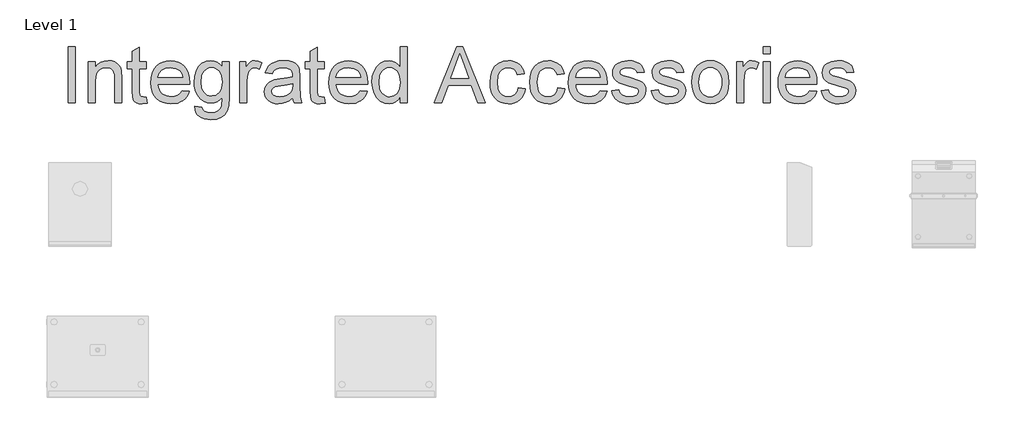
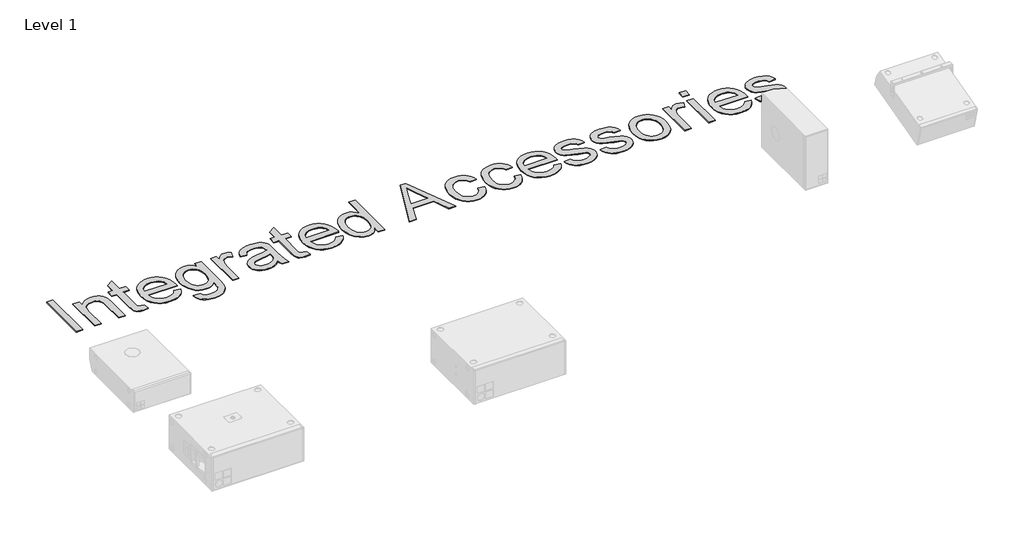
# One storey, part 6 of 55: 1 proxy.
"""IFC4 building model written with IfcOpenShell, lengths in millimetres."""

import ifcopenshell
import ifcopenshell.guid

model = None  # the IFC model being written
_history = None  # IfcOwnerHistory: only IFC2X3 demands one
_inside = {}  # id of a spatial element -> (the spatial element, [elements in it])
_under = {}  # id of a project, library or spatial element -> (it, [spatial elements below it])
_declared = {}  # id of a project -> (the project, [libraries it declares])
_typed = {}  # id of a type object -> (the type object, [elements of that type])
_made_of = {}  # id of a material, layer set ... -> (it, [elements and type objects made of it])


def new_model(schema):
    """Start an empty IFC model of exactly this schema.

    Asked for "IFC4X3", IfcOpenShell would pick the latest addendum, in which some entities
    have other attributes; the version numbers below select the first issue.
    IFC2X3 requires an IfcOwnerHistory on every rooted entity: one is made here for all.
    """
    global model, _history
    if schema == "IFC4X3":
        model = ifcopenshell.file(schema_version=(4, 3, 0, 0))
    else:
        model = ifcopenshell.file(schema=schema)
    _inside.clear()
    _under.clear()
    _declared.clear()
    _typed.clear()
    _made_of.clear()
    _history = None
    if model.schema == "IFC2X3":
        org = make("IfcOrganization", Name="unknown")
        user = make(
            "IfcPersonAndOrganization",
            ThePerson=make("IfcPerson", FamilyName="unknown"),
            TheOrganization=org,
        )
        app = make(
            "IfcApplication",
            ApplicationDeveloper=org,
            Version="unknown",
            ApplicationFullName="unknown",
            ApplicationIdentifier="unknown",
        )
        _history = make(
            "IfcOwnerHistory",
            OwningUser=user,
            OwningApplication=app,
            ChangeAction="ADDED",
            CreationDate=0,
        )
    return model


def make(cls, **values):
    """One entity of the class cls with the attributes given. An attribute that is None is left unset."""
    return model.create_entity(
        cls, **{name: value for name, value in values.items() if value is not None}
    )


def rooted(cls, **values):
    """An entity with a GlobalId (a new one), such as an element, a storey or a relation."""
    return make(cls, GlobalId=ifcopenshell.guid.new(), OwnerHistory=_history, **values)


def si_unit(unit_type, name, prefix=None):
    """IfcSIUnit, for example si_unit("LENGTHUNIT", "METRE", prefix="MILLI")."""
    return make("IfcSIUnit", UnitType=unit_type, Prefix=prefix, Name=name)


def assignment(units):
    """IfcUnitAssignment: the units of a project."""
    return None if units is None else make("IfcUnitAssignment", Units=units)


def point(xyz):
    """IfcCartesianPoint."""
    return None if xyz is None else make("IfcCartesianPoint", Coordinates=xyz)


def direction(xyz):
    """IfcDirection."""
    return None if xyz is None else make("IfcDirection", DirectionRatios=xyz)


def frame(location, z_axis=None, x_axis=None):
    """IfcAxis2Placement3D, a coordinate frame: its origin and axes. An axis left out is left unset."""
    return make(
        "IfcAxis2Placement3D",
        Location=point(location),
        Axis=direction(z_axis),
        RefDirection=direction(x_axis),
    )


def origin():
    """The frame at (0, 0, 0) with its axes left unset."""
    return frame((0.0, 0.0, 0.0))


def origin_with_axes():
    """The frame at (0, 0, 0) with the z axis (0, 0, 1) and the x axis (1, 0, 0) written out."""
    return frame((0.0, 0.0, 0.0), z_axis=(0.0, 0.0, 1.0), x_axis=(1.0, 0.0, 0.0))


def place(relative_to, where):
    """IfcLocalPlacement: puts the frame where relative to a parent placement (None: the world)."""
    return make(
        "IfcLocalPlacement", PlacementRelTo=relative_to, RelativePlacement=where
    )


def context(
    kind, dimensions, precision=None, world=None, true_north=None, identifier=None
):
    """IfcGeometricRepresentationContext, for example the 3D "Model" context."""
    return make(
        "IfcGeometricRepresentationContext",
        ContextIdentifier=identifier,
        ContextType=kind,
        CoordinateSpaceDimension=dimensions,
        Precision=precision,
        WorldCoordinateSystem=world,
        TrueNorth=true_north,
    )


def project(units=None, contexts=None):
    """IfcProject with its units and contexts."""
    return rooted(
        "IfcProject",
        Name="project",
        RepresentationContexts=contexts,
        UnitsInContext=assignment(units),
    )


def spatial(cls, under=None, at=None, **own):
    """A site, building, storey or space (cls), placed at a placement, below another one or the project."""
    s = rooted(cls, ObjectPlacement=at, **own)
    if under is not None:
        _under.setdefault(under.id(), (under, []))[1].append(s)
    return s


def polyline(points):
    """IfcPolyline through the points."""
    return make("IfcPolyline", Points=[point(p) for p in points])


def outline(outer, holes=None, kind="AREA"):
    """IfcArbitraryClosedProfileDef: a profile drawn as a closed curve; with holes, ...WithVoids."""
    if holes is None:
        return make("IfcArbitraryClosedProfileDef", ProfileType=kind, OuterCurve=outer)
    return make(
        "IfcArbitraryProfileDefWithVoids",
        ProfileType=kind,
        OuterCurve=outer,
        InnerCurves=holes,
    )


def extrude(swept, where, along, depth):
    """IfcExtrudedAreaSolid: the profile swept, set in the frame where, extruded along a direction by depth."""
    return make(
        "IfcExtrudedAreaSolid",
        SweptArea=swept,
        Position=where,
        ExtrudedDirection=direction(along),
        Depth=depth,
    )


def shape(context_of_items, identifier, shape_type, items):
    """IfcShapeRepresentation: the items that make up one representation, for example the "Body"."""
    return make(
        "IfcShapeRepresentation",
        ContextOfItems=context_of_items,
        RepresentationIdentifier=identifier,
        RepresentationType=shape_type,
        Items=items,
    )


def made_of(thing, what):
    """Note that an element or type object is made of a material, layer set ...; save() writes the relation."""
    if what is not None:
        _made_of.setdefault(what.id(), (what, []))[1].append(thing)
    return thing


def element(
    cls,
    number,
    at=None,
    inside=None,
    cuts=None,
    type_object=None,
    material=None,
    context=None,
    identifier="Body",
    shape_type=None,
    held_by="IfcProductDefinitionShape",
    body=None,
    shapes=None,
    **own,
):
    """One element of the class cls, such as IfcWall. Its Tag is "e" and its number.

    at: its placement. inside: the storey or other place that contains it. cuts: it is an
    opening in that element (IfcRelVoidsElement). A single representation is given by context,
    identifier, shape_type and body (its items); several are given by shapes. held_by: the class
    of the entity that holds the representations. save() writes the other relations.
    """
    e = rooted(cls, Tag="e%d" % number, ObjectPlacement=at, **own)
    if body is not None:
        shapes = [shape(context, identifier, shape_type, body)]
    if shapes is not None:
        e.Representation = make(held_by, Representations=shapes)
    if inside is not None:
        _inside.setdefault(inside.id(), (inside, []))[1].append(e)
    if cuts is not None:
        rooted(
            "IfcRelVoidsElement", RelatingBuildingElement=cuts, RelatedOpeningElement=e
        )
    if type_object is not None:
        _typed.setdefault(type_object.id(), (type_object, []))[1].append(e)
    return made_of(e, material)


def aggregate(whole, parts):
    """IfcRelAggregates: a whole, such as a stair, and the parts it consists of."""
    return rooted("IfcRelAggregates", RelatingObject=whole, RelatedObjects=parts)


def save(model, path):
    """Write the relations noted so far, then the file.

    IfcRelAggregates (storeys below a building ...), IfcRelContainedInSpatialStructure (elements
    in a storey), IfcRelDefinesByType, IfcRelAssociatesMaterial and IfcRelDeclares: one each for
    every whole, place, type object, material and project.
    """
    for whole, parts in _under.values():
        aggregate(whole, parts)
    for where, things in _inside.values():
        rooted(
            "IfcRelContainedInSpatialStructure",
            RelatedElements=things,
            RelatingStructure=where,
        )
    for kind, things in _typed.values():
        rooted("IfcRelDefinesByType", RelatedObjects=things, RelatingType=kind)
    for what, things in _made_of.values():
        rooted("IfcRelAssociatesMaterial", RelatedObjects=things, RelatingMaterial=what)
    for by, libraries in _declared.values():
        rooted("IfcRelDeclares", RelatingContext=by, RelatedDefinitions=libraries)
    model.write(path)


model = new_model("IFC4")

# Units and contexts
model_context = context("Model", 3, world=origin())
ifc_project = project(units=[si_unit("LENGTHUNIT", "METRE", prefix="MILLI")], contexts=[model_context])

# Site, building, storey
site = spatial("IfcSite", under=ifc_project)
building = spatial("IfcBuilding", under=site)
storey = spatial("IfcBuildingStorey", under=building, Name="Level 1", Elevation=0.0)

# Proxy
placement = place(None, origin())
element("IfcBuildingElementProxy", 1, Name="400mm Arial", ObjectType="400mm Arial", at=placement, inside=storey, context=model_context, shape_type="SweptSolid", body=[
    extrude(outline(polyline([(-11437.7764845, -35148.6945164), (-11437.7764845, -34756.9369407), (-11388.8067875, -34756.9369407), (-11388.8067875, -35148.6945164), (-11437.7764845, -35148.6945164)])), origin_with_axes(), (0.0, 0.0, 1.0), 5.0),
    extrude(outline(polyline([(-11296.9886057, -35148.6945164), (-11296.9886057, -34860.9975467), (-11248.0189088, -34860.9975467), (-11248.0189088, -34901.1680013), (-11231.006243, -34880.9153971), (-11210.5743065, -34866.4492513), (-11186.7230991, -34857.7695638), (-11159.4526209, -34854.8763346), (-11135.3144817, -34857.2076556), (-11113.2087762, -34864.2016187), (-11094.7734069, -34874.9854729), (-11081.6462762, -34888.6864672), (-11072.7394343, -34905.2687352), (-11066.9649315, -34924.6964104), (-11064.3825451, -34972.0401604), (-11064.3825451, -35148.6945164), (-11113.3522421, -35148.6945164), (-11113.3522421, -34978.6395922), (-11114.7629902, -34953.3178592), (-11118.9952345, -34935.3128876), (-11126.8021711, -34922.4129113), (-11138.9369959, -34912.4061642), (-11154.4910915, -34905.9860647), (-11172.5558406, -34903.8460316), (-11201.2370669, -34908.6521395), (-11225.6860489, -34923.0704634), (-11235.4566751, -34934.8406457), (-11242.4356938, -34950.9267607), (-11246.623105, -34971.3288086), (-11248.0189088, -34996.0467892), (-11248.0189088, -35148.6945164), (-11296.9886057, -35148.6945164)])), origin_with_axes(), (0.0, 0.0, 1.0), 5.0),
    extrude(outline(polyline([(-10892.9886057, -35107.8545543), (-10886.8673936, -35150.1291755), (-10923.4990224, -35154.8157285), (-10947.0035205, -35152.7832948), (-10964.5302724, -35146.6859937), (-10976.9161625, -35137.2889767), (-10984.9980754, -35125.3573952), (-10989.4455186, -35104.8656812), (-10990.9279997, -35069.7882664), (-10990.9279997, -34909.9672437), (-11027.6552724, -34909.9672437), (-11027.6552724, -34860.9975467), (-10990.9279997, -34860.9975467), (-10990.9279997, -34791.081827), (-10941.9583027, -34762.2930013), (-10941.9583027, -34860.9975467), (-10892.9886057, -34860.9975467), (-10892.9886057, -34909.9672437), (-10941.9583027, -34909.9672437), (-10941.9583027, -35068.3536073), (-10939.3759163, -35093.6036073), (-10931.0070716, -35102.5463157), (-10914.3172042, -35105.8460316), (-10892.9886057, -35107.8545543)])), origin_with_axes(), (0.0, 0.0, 1.0), 5.0),
    extrude(outline(polyline([(-10642.5927724, -35062.9975467), (-10594.5795148, -35069.1187589), (-10601.9411093, -35088.3491684), (-10611.8791124, -35105.2960789), (-10624.3935241, -35119.9594904), (-10639.4843444, -35132.3394028), (-10656.9961519, -35142.1727953), (-10676.7735252, -35149.1966471), (-10723.1249694, -35154.8157285), (-10753.5098534, -35152.3917525), (-10780.583066, -35145.1198242), (-10804.3446072, -35132.9999437), (-10824.7944769, -35116.0321111), (-10841.2392568, -35094.6885683), (-10852.9855281, -35069.4415571), (-10860.0332909, -35040.2910777), (-10862.3825451, -35007.2371301), (-10860.0093799, -34973.062355), (-10852.8898841, -34942.9404918), (-10841.0240579, -34916.8715406), (-10824.4119012, -34894.8555013), (-10804.0158311, -34877.3646159), (-10780.7982648, -34864.8711263), (-10754.7592023, -34857.3750325), (-10725.8986436, -34854.8763346), (-10697.9676244, -34857.3690548), (-10672.7086578, -34864.8472153), (-10650.1217438, -34877.3108161), (-10630.2068822, -34894.7598573), (-10613.9504014, -34916.7280747), (-10602.3386294, -34942.7492039), (-10595.3715662, -34972.8232451), (-10593.0492118, -35006.9501982), (-10593.3361436, -35020.1490619), (-10813.4128482, -35020.1490619), (-10810.5764076, -35039.6903142), (-10804.936404, -35056.8046017), (-10796.4928375, -35071.4919241), (-10785.245708, -35083.7522816), (-10756.8275025, -35100.3225941), (-10722.16853, -35105.8460316), (-10696.1055565, -35103.2875562), (-10674.1552724, -35095.6121301), (-10656.3176777, -35082.3415335), (-10642.5927724, -35062.9975467)]), holes=[polyline([(-10813.4128482, -34971.1793649), (-10642.0189088, -34971.1793649), (-10648.6422516, -34945.3076793), (-10661.6259163, -34926.800577), (-10674.9802014, -34916.7579634), (-10690.1756322, -34909.5846679), (-10726.0899315, -34903.8460316), (-10759.0990461, -34908.4249852), (-10786.3934353, -34922.161846), (-10805.3668018, -34943.5741329), (-10813.4128482, -34971.1793649)])]), origin_with_axes(), (0.0, 0.0, 1.0), 5.0),
    extrude(outline(polyline([(-10556.3219391, -35173.1793649), (-10507.3522421, -35179.300577), (-10501.9483595, -35194.6036073), (-10491.4753482, -35205.1244407), (-10470.8879902, -35213.3019975), (-10443.9403103, -35216.0278498), (-10415.1993065, -35212.9433327), (-10393.822886, -35203.6897816), (-10378.9980754, -35188.864971), (-10369.9119012, -35169.0666755), (-10366.5643633, -35111.9672437), (-10382.8596995, -35128.0354255), (-10401.0440035, -35139.5126982), (-10421.1172752, -35146.3990619), (-10443.0795148, -35148.6945164), (-10469.9285619, -35146.0224639), (-10493.5675593, -35138.0063062), (-10513.996507, -35124.6460434), (-10531.215405, -35105.9416755), (-10544.8775439, -35083.5012162), (-10554.6362146, -35058.9326793), (-10560.491417, -35032.2360647), (-10562.4431512, -35003.4113725), (-10558.9401919, -34963.874559), (-10548.4313141, -34927.5179066), (-10531.2871379, -34896.7086026), (-10507.8782838, -34873.8138346), (-10479.0057696, -34859.6107096), (-10445.4706133, -34854.8763346), (-10422.5698676, -34857.5543649), (-10401.785244, -34865.5884558), (-10383.1167426, -34878.9786073), (-10366.5643633, -34897.7248195), (-10366.5643633, -34860.9975467), (-10317.5946663, -34860.9975467), (-10317.5946663, -35109.3848573), (-10320.9422042, -35166.7353545), (-10330.9848179, -35204.5027551), (-10348.2844154, -35229.5495117), (-10373.402905, -35248.738077), (-10405.7903339, -35260.9326793), (-10444.8967497, -35264.9975467), (-10490.4591313, -35259.2708659), (-10509.6088413, -35252.1125148), (-10526.3375641, -35242.0908232), (-10539.8502594, -35229.1938358), (-10549.351887, -35213.4095969), (-10554.8424469, -35194.7381066), (-10556.3219391, -35173.1793649)]), holes=[polyline([(-10513.4734542, -35000.0638346), (-10508.248904, -35044.9806196), (-10501.7182163, -35062.1756066), (-10492.5752535, -35075.8616566), (-10481.4596344, -35086.3017903), (-10469.0109779, -35093.7590287), (-10455.229284, -35098.2333718), (-10440.1145527, -35099.7248195), (-10411.4333264, -35093.7948952), (-10387.7494959, -35076.0051225), (-10378.4810004, -35062.4535718), (-10371.8606464, -35045.5186168), (-10366.5643633, -35001.4984937), (-10372.0160679, -34959.0445401), (-10378.8306985, -34942.2739731), (-10388.3711815, -34928.474346), (-10412.4017213, -34910.0031102), (-10426.0847823, -34905.3853012), (-10440.8797042, -34903.8460316), (-10455.4265496, -34905.3613902), (-10468.843601, -34909.9074662), (-10492.2883216, -34928.0917702), (-10501.5568171, -34941.6821762), (-10508.1771711, -34958.2076556), (-10513.4734542, -35000.0638346)])]), origin_with_axes(), (0.0, 0.0, 1.0), 5.0),
    extrude(outline(polyline([(-10244.1401209, -35148.6945164), (-10244.1401209, -34860.9975467), (-10201.291636, -34860.9975467), (-10201.291636, -34903.5590998), (-10185.4625641, -34878.8829634), (-10170.8768633, -34864.3450846), (-10156.2433406, -34857.2435221), (-10140.2708027, -34854.8763346), (-10115.8815982, -34858.6542702), (-10091.1098179, -34869.988077), (-10107.4649315, -34913.8886452), (-10124.6808406, -34906.356685), (-10141.8967497, -34903.8460316), (-10156.5183169, -34906.261041), (-10169.5856701, -34913.5060695), (-10180.1423699, -34925.0311642), (-10187.2319769, -34940.2863725), (-10193.1858122, -34967.6405392), (-10195.1704239, -34997.4814482), (-10195.1704239, -35148.6945164), (-10244.1401209, -35148.6945164)])), origin_with_axes(), (0.0, 0.0, 1.0), 5.0),
    extrude(outline(polyline([(-9876.8673936, -35111.9672437), (-9900.2642923, -35132.02856), (-9924.3546095, -35145.1556907), (-9949.688298, -35152.4007191), (-9976.8153103, -35154.8157285), (-9998.6191396, -35153.3631362), (-10017.7389608, -35149.0053592), (-10034.1747741, -35141.7423976), (-10047.9265792, -35131.5742513), (-10058.7851552, -35119.1465169), (-10066.5412809, -35105.104791), (-10071.1949563, -35089.4490737), (-10072.7461815, -35072.1793649), (-10070.402905, -35051.8789388), (-10063.3730754, -35033.4435695), (-10052.5294438, -35017.6623195), (-10038.744761, -35005.3242513), (-10004.4564088, -34989.2560695), (-9962.0861436, -34981.8914861), (-9912.0165413, -34974.144327), (-9877.1543254, -34965.0581528), (-9876.8673936, -34954.1547437), (-9880.2388425, -34932.3001035), (-9890.3531891, -34918.0013346), (-9912.9729807, -34907.3848573), (-9944.4876588, -34903.8460316), (-9973.6590603, -34906.2012636), (-9994.0312194, -34913.2669596), (-10007.9235016, -34926.3343128), (-10017.6552724, -34946.6945164), (-10066.6249694, -34940.5733043), (-10058.1246143, -34913.7930013), (-10045.4398368, -34892.7513346), (-10027.3870432, -34876.6592418), (-10002.7826398, -34864.7276604), (-9972.6906654, -34857.339166), (-9938.1751588, -34854.8763346), (-9905.0704002, -34857.0522342), (-9878.8280944, -34863.5799331), (-9859.0417544, -34873.3953924), (-9845.3048936, -34885.4345732), (-9836.1948084, -34900.3191613), (-9830.2887951, -34918.6708422), (-9827.8976966, -34961.519327), (-9827.8976966, -35022.4445164), (-9825.4109542, -35107.5198005), (-9815.6552724, -35148.6945164), (-9864.6249694, -35148.6945164), (-9872.4677724, -35131.6698952), (-9876.8673936, -35111.9672437)]), holes=[polyline([(-9876.8673936, -35014.0278498), (-9909.7689088, -35022.1814956), (-9955.8692875, -35029.0439482), (-9998.0004429, -35036.9823952), (-10008.9636294, -35042.4101888), (-10017.0814088, -35049.894327), (-10022.1027156, -35058.8609464), (-10023.7764845, -35068.7361831), (-10020.1300593, -35083.2979729), (-10009.1907838, -35095.2295543), (-9991.1977677, -35103.1919123), (-9966.3901209, -35105.8460316), (-9940.0880375, -35102.9169359), (-9916.8465603, -35094.129649), (-9898.0047042, -35081.1818507), (-9884.9014845, -35065.771221), (-9879.0911152, -35049.894327), (-9877.1543254, -35027.896221), (-9876.8673936, -35014.0278498)])]), origin_with_axes(), (0.0, 0.0, 1.0), 5.0),
    extrude(outline(polyline([(-9656.5037572, -35107.8545543), (-9650.3825451, -35150.1291755), (-9687.0141739, -35154.8157285), (-9710.518672, -35152.7832948), (-9728.0454239, -35146.6859937), (-9740.4313141, -35137.2889767), (-9748.5132269, -35125.3573952), (-9752.9606701, -35104.8656812), (-9754.4431512, -35069.7882664), (-9754.4431512, -34909.9672437), (-9791.1704239, -34909.9672437), (-9791.1704239, -34860.9975467), (-9754.4431512, -34860.9975467), (-9754.4431512, -34791.081827), (-9705.4734542, -34762.2930013), (-9705.4734542, -34860.9975467), (-9656.5037572, -34860.9975467), (-9656.5037572, -34909.9672437), (-9705.4734542, -34909.9672437), (-9705.4734542, -35068.3536073), (-9702.8910679, -35093.6036073), (-9694.5222232, -35102.5463157), (-9677.8323557, -35105.8460316), (-9656.5037572, -35107.8545543)])), origin_with_axes(), (0.0, 0.0, 1.0), 5.0),
    extrude(outline(polyline([(-9406.1079239, -35062.9975467), (-9358.0946663, -35069.1187589), (-9365.4562608, -35088.3491684), (-9375.3942639, -35105.2960789), (-9387.9086756, -35119.9594904), (-9402.9994959, -35132.3394028), (-9420.5113034, -35142.1727953), (-9440.2886768, -35149.1966471), (-9486.6401209, -35154.8157285), (-9517.0250049, -35152.3917525), (-9544.0982175, -35145.1198242), (-9567.8597587, -35132.9999437), (-9588.3096285, -35116.0321111), (-9604.7544083, -35094.6885683), (-9616.5006796, -35069.4415571), (-9623.5484424, -35040.2910777), (-9625.8976966, -35007.2371301), (-9623.5245314, -34973.062355), (-9616.4050357, -34942.9404918), (-9604.5392094, -34916.8715406), (-9587.9270527, -34894.8555013), (-9567.5309826, -34877.3646159), (-9544.3134163, -34864.8711263), (-9518.2743538, -34857.3750325), (-9489.4137951, -34854.8763346), (-9461.4827759, -34857.3690548), (-9436.2238093, -34864.8472153), (-9413.6368953, -34877.3108161), (-9393.7220338, -34894.7598573), (-9377.4655529, -34916.7280747), (-9365.8537809, -34942.7492039), (-9358.8867177, -34972.8232451), (-9356.5643633, -35006.9501982), (-9356.8512951, -35020.1490619), (-9576.9279997, -35020.1490619), (-9574.0915591, -35039.6903142), (-9568.4515555, -35056.8046017), (-9560.007989, -35071.4919241), (-9548.7608595, -35083.7522816), (-9520.342654, -35100.3225941), (-9485.6836815, -35105.8460316), (-9459.620708, -35103.2875562), (-9437.6704239, -35095.6121301), (-9419.8328292, -35082.3415335), (-9406.1079239, -35062.9975467)]), holes=[polyline([(-9576.9279997, -34971.1793649), (-9405.5340603, -34971.1793649), (-9412.1574031, -34945.3076793), (-9425.1410679, -34926.800577), (-9438.4953529, -34916.7579634), (-9453.6907838, -34909.5846679), (-9489.605083, -34903.8460316), (-9522.6141976, -34908.4249852), (-9549.9085868, -34922.161846), (-9568.8819533, -34943.5741329), (-9576.9279997, -34971.1793649)])]), origin_with_axes(), (0.0, 0.0, 1.0), 5.0),
    extrude(outline(polyline([(-9130.0795148, -35148.6945164), (-9130.0795148, -35102.4984937), (-9144.7309708, -35125.3872839), (-9162.4788993, -35141.7364198), (-9183.3233003, -35151.5459014), (-9207.2641739, -35154.8157285), (-9238.9223179, -35150.0813535), (-9267.9024315, -35135.8782285), (-9292.4351019, -35113.1986594), (-9310.7509163, -35083.034952), (-9322.1564561, -35046.6065666), (-9325.9583027, -35005.1329634), (-9322.4553434, -34964.1734464), (-9311.9464656, -34927.1831528), (-9294.4436247, -34896.2662494), (-9269.9587762, -34873.5269028), (-9240.3450214, -34859.5389767), (-9207.4554618, -34854.8763346), (-9183.496655, -34858.211917), (-9162.3115224, -34868.2186642), (-9144.3543728, -34883.5575609), (-9130.0795148, -34902.8895922), (-9130.0795148, -34756.9369407), (-9081.1098179, -34756.9369407), (-9081.1098179, -35148.6945164), (-9130.0795148, -35148.6945164)]), holes=[polyline([(-9276.9886057, -35004.9416755), (-9271.4651682, -35049.236775), (-9264.5608714, -35066.5871833), (-9254.8948557, -35080.7394975), (-9230.816494, -35099.5693981), (-9217.2888543, -35104.2768732), (-9202.7689088, -35105.8460316), (-9174.733279, -35099.8563299), (-9151.2646474, -35081.8872248), (-9141.9961519, -35068.3267075), (-9135.375798, -35051.6039625), (-9130.0795148, -35008.6717892), (-9135.4714419, -34961.7345259), (-9142.2113508, -34943.6637991), (-9151.6472232, -34929.1916755), (-9163.0557518, -34918.1029563), (-9175.7136294, -34910.1824426), (-9189.620856, -34905.4301343), (-9204.7774315, -34903.8460316), (-9219.5843089, -34905.367368), (-9233.1119485, -34909.9313772), (-9245.3603505, -34917.5380593), (-9256.3295148, -34928.1874142), (-9265.3678671, -34942.112574), (-9271.823833, -34959.5466708), (-9276.9886057, -35004.9416755)])]), origin_with_axes(), (0.0, 0.0, 1.0), 5.0),
    extrude(outline(polyline([(-8894.0302724, -35148.6945164), (-8737.6524315, -34756.9369407), (-8695.9516739, -34756.9369407), (-8539.6694769, -35148.6945164), (-8591.4128482, -35148.6945164), (-8636.1742118, -35026.270274), (-8797.6211815, -35026.270274), (-8842.3825451, -35148.6945164), (-8894.0302724, -35148.6945164)]), holes=[polyline([(-8779.6401209, -34977.300577), (-8654.0596285, -34977.300577), (-8689.447886, -34880.9871301), (-8716.8976966, -34805.9066376), (-8741.2869012, -34872.5704634), (-8779.6401209, -34977.300577)])]), origin_with_axes(), (0.0, 0.0, 1.0), 5.0),
    extrude(outline(polyline([(-8309.8370906, -35044.6339104), (-8260.8673936, -35050.7551225), (-8266.1935655, -35073.8621005), (-8274.520566, -35094.3089814), (-8285.848395, -35112.0957652), (-8300.1770527, -35127.222452), (-8316.9027866, -35139.2945105), (-8335.4218444, -35147.9174094), (-8355.734226, -35153.0911488), (-8377.8399315, -35154.8157285), (-8405.3046865, -35152.4096857), (-8429.930012, -35145.1915571), (-8451.715908, -35133.1613429), (-8470.6623747, -35116.3190429), (-8485.9982826, -35094.9814778), (-8496.9525025, -35069.4654681), (-8503.5250345, -35039.7710138), (-8505.7158785, -35005.8981149), (-8501.9738093, -34962.320345), (-8490.7476019, -34924.5529445), (-8471.8579239, -34894.0544833), (-8445.1254429, -34872.2835316), (-8413.1445006, -34859.2281339), (-8378.5094391, -34854.8763346), (-8356.7833205, -34856.3707712), (-8337.1314798, -34860.8540808), (-8319.553917, -34868.3262636), (-8304.0506322, -34878.7873195), (-8290.8846462, -34891.9981386), (-8280.3189798, -34907.7196111), (-8272.353633, -34925.9517371), (-8266.9886057, -34946.6945164), (-8315.9583027, -34952.8157285), (-8324.8412336, -34931.4512636), (-8338.6737383, -34916.1362778), (-8356.6906654, -34906.9185931), (-8378.1268633, -34903.8460316), (-8394.7659199, -34905.3584014), (-8409.7730518, -34909.8955107), (-8423.1482589, -34917.4573597), (-8434.8915413, -34928.0439482), (-8444.4529464, -34941.900364), (-8451.2825214, -34959.2716945), (-8456.7461815, -35004.5590998), (-8451.4020764, -35050.4562352), (-8444.721945, -35067.9441317), (-8435.369761, -35081.7915808), (-8423.8596107, -35092.315403), (-8410.7055802, -35099.8324189), (-8395.9076694, -35104.3426284), (-8379.4658785, -35105.8460316), (-8354.108279, -35102.092007), (-8333.3176777, -35090.8299331), (-8318.1939798, -35071.7728782), (-8309.8370906, -35044.6339104)])), origin_with_axes(), (0.0, 0.0, 1.0), 5.0),
    extrude(outline(polyline([(-8034.3825451, -35044.6339104), (-7985.4128482, -35050.7551225), (-7990.73902, -35073.8621005), (-7999.0660205, -35094.3089814), (-8010.3938496, -35112.0957652), (-8024.7225072, -35127.222452), (-8041.4482411, -35139.2945105), (-8059.9672989, -35147.9174094), (-8080.2796805, -35153.0911488), (-8102.385386, -35154.8157285), (-8129.850141, -35152.4096857), (-8154.4754665, -35145.1915571), (-8176.2613626, -35133.1613429), (-8195.2078292, -35116.3190429), (-8210.5437371, -35094.9814778), (-8221.4979571, -35069.4654681), (-8228.070489, -35039.7710138), (-8230.261333, -35005.8981149), (-8226.5192639, -34962.320345), (-8215.2930565, -34924.5529445), (-8196.4033785, -34894.0544833), (-8169.6708974, -34872.2835316), (-8137.6899552, -34859.2281339), (-8103.0548936, -34854.8763346), (-8081.328775, -34856.3707712), (-8061.6769343, -34860.8540808), (-8044.0993716, -34868.3262636), (-8028.5960868, -34878.7873195), (-8015.4301008, -34891.9981386), (-8004.8644343, -34907.7196111), (-7996.8990875, -34925.9517371), (-7991.5340603, -34946.6945164), (-8040.5037572, -34952.8157285), (-8049.3866881, -34931.4512636), (-8063.2191929, -34916.1362778), (-8081.2361199, -34906.9185931), (-8102.6723179, -34903.8460316), (-8119.3113744, -34905.3584014), (-8134.3185063, -34909.8955107), (-8147.6937134, -34917.4573597), (-8159.4369959, -34928.0439482), (-8168.9984009, -34941.900364), (-8175.827976, -34959.2716945), (-8181.291636, -35004.5590998), (-8175.9475309, -35050.4562352), (-8169.2673995, -35067.9441317), (-8159.9152156, -35081.7915808), (-8148.4050652, -35092.315403), (-8135.2510347, -35099.8324189), (-8120.453124, -35104.3426284), (-8104.011333, -35105.8460316), (-8078.6537336, -35102.092007), (-8057.8631322, -35090.8299331), (-8042.7394343, -35071.7728782), (-8034.3825451, -35044.6339104)])), origin_with_axes(), (0.0, 0.0, 1.0), 5.0),
    extrude(outline(polyline([(-7741.1382269, -35062.9975467), (-7693.1249694, -35069.1187589), (-7700.4865638, -35088.3491684), (-7710.4245669, -35105.2960789), (-7722.9389786, -35119.9594904), (-7738.0297989, -35132.3394028), (-7755.5416064, -35142.1727953), (-7775.3189798, -35149.1966471), (-7821.6704239, -35154.8157285), (-7852.0553079, -35152.3917525), (-7879.1285205, -35145.1198242), (-7902.8900617, -35132.9999437), (-7923.3399315, -35116.0321111), (-7939.7847113, -35094.6885683), (-7951.5309826, -35069.4415571), (-7958.5787454, -35040.2910777), (-7960.9279997, -35007.2371301), (-7958.5548344, -34973.062355), (-7951.4353387, -34942.9404918), (-7939.5695125, -34916.8715406), (-7922.9573557, -34894.8555013), (-7902.5612857, -34877.3646159), (-7879.3437194, -34864.8711263), (-7853.3046569, -34857.3750325), (-7824.4440982, -34854.8763346), (-7796.513079, -34857.3690548), (-7771.2541124, -34864.8472153), (-7748.6671983, -34877.3108161), (-7728.7523368, -34894.7598573), (-7712.495856, -34916.7280747), (-7700.8840839, -34942.7492039), (-7693.9170207, -34972.8232451), (-7691.5946663, -35006.9501982), (-7691.8815982, -35020.1490619), (-7911.9583027, -35020.1490619), (-7909.1218621, -35039.6903142), (-7903.4818586, -35056.8046017), (-7895.038292, -35071.4919241), (-7883.7911625, -35083.7522816), (-7855.3729571, -35100.3225941), (-7820.7139845, -35105.8460316), (-7794.651011, -35103.2875562), (-7772.7007269, -35095.6121301), (-7754.8631322, -35082.3415335), (-7741.1382269, -35062.9975467)]), holes=[polyline([(-7911.9583027, -34971.1793649), (-7740.5643633, -34971.1793649), (-7747.1877061, -34945.3076793), (-7760.1713709, -34926.800577), (-7773.5256559, -34916.7579634), (-7788.7210868, -34909.5846679), (-7824.635386, -34903.8460316), (-7857.6445006, -34908.4249852), (-7884.9388898, -34922.161846), (-7903.9122563, -34943.5741329), (-7911.9583027, -34971.1793649)])]), origin_with_axes(), (0.0, 0.0, 1.0), 5.0),
    extrude(outline(polyline([(-7660.9886057, -35062.9975467), (-7612.0189088, -35056.8763346), (-7604.2956607, -35077.8223573), (-7589.3512951, -35093.2210316), (-7567.0901682, -35102.6897816), (-7537.416636, -35105.8460316), (-7508.1017686, -35102.9528024), (-7487.4904997, -35094.2731149), (-7475.2958974, -35081.6959369), (-7471.23103, -35067.1102361), (-7475.3198084, -35054.628702), (-7487.5861436, -35045.1121301), (-7537.9904997, -35031.1481149), (-7611.7319769, -35007.1893081), (-7630.3945006, -34995.1501272), (-7643.9161625, -34979.2134558), (-7652.1295858, -34960.3955107), (-7654.8673936, -34939.7125089), (-7652.667583, -34920.7391424), (-7646.0681512, -34903.224346), (-7635.6668728, -34887.8615382), (-7622.0615224, -34875.3441376), (-7590.9294201, -34860.8540808), (-7548.7982648, -34854.8763346), (-7516.924922, -34857.2793886), (-7489.2120906, -34864.4885505), (-7466.9270527, -34875.7984464), (-7451.3370906, -34890.503702), (-7441.0075451, -34909.6922674), (-7434.5037572, -34934.4520922), (-7483.4734542, -34940.5733043), (-7489.6544438, -34925.1626746), (-7501.8849125, -34913.5538914), (-7520.2844154, -34906.2729965), (-7544.9725072, -34903.8460316), (-7573.0918254, -34906.1653971), (-7591.8380375, -34913.1234937), (-7602.3827819, -34923.1661073), (-7605.8976966, -34934.739024), (-7600.0634163, -34948.989971), (-7581.7954239, -34959.7977361), (-7539.6164466, -34970.2229255), (-7467.7400262, -34993.2731149), (-7448.7547042, -35004.2960789), (-7434.3602913, -35019.3839104), (-7425.2860726, -35038.5844312), (-7422.261333, -35061.9454634), (-7425.8121143, -35086.0955581), (-7436.464458, -35108.8109937), (-7453.8118775, -35128.3104018), (-7477.447886, -35142.8124142), (-7505.9976019, -35151.8149), (-7538.0861436, -35154.8157285), (-7564.4420267, -35153.369114), (-7587.4623273, -35149.0292702), (-7607.1470456, -35141.7961973), (-7623.4961815, -35131.6698952), (-7636.8504665, -35118.6981859), (-7647.5506322, -35102.9288914), (-7655.5966786, -35084.3620117), (-7660.9886057, -35062.9975467)])), origin_with_axes(), (0.0, 0.0, 1.0), 5.0),
    extrude(outline(polyline([(-7385.5340603, -35062.9975467), (-7336.5643633, -35056.8763346), (-7328.8411152, -35077.8223573), (-7313.8967497, -35093.2210316), (-7291.6356228, -35102.6897816), (-7261.9620906, -35105.8460316), (-7232.6472232, -35102.9528024), (-7212.0359542, -35094.2731149), (-7199.8413519, -35081.6959369), (-7195.7764845, -35067.1102361), (-7199.8652629, -35054.628702), (-7212.1315982, -35045.1121301), (-7262.5359542, -35031.1481149), (-7336.2774315, -35007.1893081), (-7354.9399552, -34995.1501272), (-7368.4616171, -34979.2134558), (-7376.6750404, -34960.3955107), (-7379.4128482, -34939.7125089), (-7377.2130375, -34920.7391424), (-7370.6136057, -34903.224346), (-7360.2123273, -34887.8615382), (-7346.6069769, -34875.3441376), (-7315.4748747, -34860.8540808), (-7273.3437194, -34854.8763346), (-7241.4703766, -34857.2793886), (-7213.7575451, -34864.4885505), (-7191.4725072, -34875.7984464), (-7175.8825451, -34890.503702), (-7165.5529997, -34909.6922674), (-7159.0492118, -34934.4520922), (-7208.0189088, -34940.5733043), (-7214.1998983, -34925.1626746), (-7226.4303671, -34913.5538914), (-7244.8298699, -34906.2729965), (-7269.5179618, -34903.8460316), (-7297.63728, -34906.1653971), (-7316.3834921, -34913.1234937), (-7326.9282364, -34923.1661073), (-7330.4431512, -34934.739024), (-7324.6088709, -34948.989971), (-7306.3408785, -34959.7977361), (-7264.1619012, -34970.2229255), (-7192.2854807, -34993.2731149), (-7173.3001588, -35004.2960789), (-7158.9057459, -35019.3839104), (-7149.8315271, -35038.5844312), (-7146.8067875, -35061.9454634), (-7150.3575688, -35086.0955581), (-7161.0099125, -35108.8109937), (-7178.3573321, -35128.3104018), (-7201.9933406, -35142.8124142), (-7230.5430565, -35151.8149), (-7262.6315982, -35154.8157285), (-7288.9874812, -35153.369114), (-7312.0077819, -35149.0292702), (-7331.6925001, -35141.7961973), (-7348.041636, -35131.6698952), (-7361.3959211, -35118.6981859), (-7372.0960868, -35102.9288914), (-7380.1421332, -35084.3620117), (-7385.5340603, -35062.9975467)])), origin_with_axes(), (0.0, 0.0, 1.0), 5.0),
    extrude(outline(polyline([(-7103.9583027, -35004.8460316), (-7101.3101611, -34967.5867394), (-7093.3657364, -34935.4802645), (-7080.1250286, -34908.5266069), (-7061.5880375, -34886.7257664), (-7042.9255139, -34872.79164), (-7022.3262004, -34862.8386926), (-6999.7900972, -34856.8669241), (-6975.3172042, -34854.8763346), (-6948.3007802, -34857.3003107), (-6923.8727203, -34864.572239), (-6902.0330245, -34876.6921194), (-6882.7816929, -34893.659952), (-6867.0691869, -34914.9018732), (-6855.8459684, -34939.8440193), (-6849.1120373, -34968.4863902), (-6846.8673936, -35000.8289861), (-6850.8366171, -35050.3008138), (-6862.7442875, -35087.9606149), (-6882.2436957, -35116.1636215), (-6908.9881322, -35137.2650657), (-6940.7538756, -35150.4280628), (-6975.3172042, -35154.8157285), (-7002.7281595, -35152.4007191), (-7027.3833737, -35145.1556907), (-7049.282847, -35133.0806433), (-7068.4265792, -35116.175577), (-7083.9717082, -35094.7274236), (-7095.0753718, -35069.0231149), (-7101.73757, -35039.0626509), (-7103.9583027, -35004.8460316)]), holes=[polyline([(-7054.9886057, -35004.7503876), (-7053.5718799, -35028.5029622), (-7049.3217023, -35049.0693981), (-7042.2380731, -35066.4496952), (-7032.3209921, -35080.6438535), (-7020.2579002, -35091.6698064), (-7006.7362383, -35099.5454871), (-6991.7560063, -35104.2708955), (-6975.3172042, -35105.8460316), (-6958.9620906, -35104.2619288), (-6944.041636, -35099.5096206), (-6930.5558406, -35091.5891069), (-6918.5047042, -35080.5003876), (-6908.5876232, -35066.1657522), (-6901.503994, -35048.5074899), (-6897.2538164, -35027.5256007), (-6895.8370906, -35003.2200846), (-6897.262783, -34980.2207061), (-6901.5398605, -34960.1922674), (-6908.6683228, -34943.1347686), (-6918.6481701, -34929.0482096), (-6930.7441396, -34918.0222567), (-6944.2209684, -34910.1465761), (-6959.0786566, -34905.4211677), (-6975.3172042, -34903.8460316), (-6991.7560063, -34905.41519), (-7006.7362383, -34910.1226651), (-7020.2579002, -34917.968457), (-7032.3209921, -34928.9525657), (-7042.2380731, -34943.1048798), (-7049.3217023, -34960.4552882), (-7053.5718799, -34981.0037908), (-7054.9886057, -35004.7503876)])]), origin_with_axes(), (0.0, 0.0, 1.0), 5.0),
    extrude(outline(polyline([(-6791.7764845, -35148.6945164), (-6791.7764845, -34860.9975467), (-6748.9279997, -34860.9975467), (-6748.9279997, -34903.5590998), (-6733.0989277, -34878.8829634), (-6718.5132269, -34864.3450846), (-6703.8797042, -34857.2435221), (-6687.9071663, -34854.8763346), (-6663.5179618, -34858.6542702), (-6638.7461815, -34869.988077), (-6655.1012951, -34913.8886452), (-6672.3172042, -34906.356685), (-6689.5331133, -34903.8460316), (-6704.1546805, -34906.261041), (-6717.2220338, -34913.5060695), (-6727.7787336, -34925.0311642), (-6734.8683406, -34940.2863725), (-6740.8221758, -34967.6405392), (-6742.8067875, -34997.4814482), (-6742.8067875, -35148.6945164), (-6791.7764845, -35148.6945164)])), origin_with_axes(), (0.0, 0.0, 1.0), 5.0),
    extrude(outline(polyline([(-6608.1401209, -34805.9066376), (-6608.1401209, -34756.9369407), (-6559.1704239, -34756.9369407), (-6559.1704239, -34805.9066376), (-6608.1401209, -34805.9066376)])), origin_with_axes(), (0.0, 0.0, 1.0), 5.0),
    extrude(outline(polyline([(-6608.1401209, -35148.6945164), (-6608.1401209, -34860.9975467), (-6559.1704239, -34860.9975467), (-6559.1704239, -35148.6945164), (-6608.1401209, -35148.6945164)])), origin_with_axes(), (0.0, 0.0, 1.0), 5.0),
    extrude(outline(polyline([(-6284.2897421, -35062.9975467), (-6236.2764845, -35069.1187589), (-6243.638079, -35088.3491684), (-6253.5760821, -35105.2960789), (-6266.0904938, -35119.9594904), (-6281.1813141, -35132.3394028), (-6298.6931216, -35142.1727953), (-6318.4704949, -35149.1966471), (-6364.8219391, -35154.8157285), (-6395.2068231, -35152.3917525), (-6422.2800357, -35145.1198242), (-6446.0415768, -35132.9999437), (-6466.4914466, -35116.0321111), (-6482.9362265, -35094.6885683), (-6494.6824978, -35069.4415571), (-6501.7302606, -35040.2910777), (-6504.0795148, -35007.2371301), (-6501.7063496, -34973.062355), (-6494.5868538, -34942.9404918), (-6482.7210276, -34916.8715406), (-6466.1088709, -34894.8555013), (-6445.7128008, -34877.3646159), (-6422.4952345, -34864.8711263), (-6396.456172, -34857.3750325), (-6367.5956133, -34854.8763346), (-6339.6645941, -34857.3690548), (-6314.4056275, -34864.8472153), (-6291.8187134, -34877.3108161), (-6271.9038519, -34894.7598573), (-6255.6473711, -34916.7280747), (-6244.0355991, -34942.7492039), (-6237.0685359, -34972.8232451), (-6234.7461815, -35006.9501982), (-6235.0331133, -35020.1490619), (-6455.1098179, -35020.1490619), (-6452.2733773, -35039.6903142), (-6446.6333737, -35056.8046017), (-6438.1898072, -35071.4919241), (-6426.9426777, -35083.7522816), (-6398.5244722, -35100.3225941), (-6363.8654997, -35105.8460316), (-6337.8025262, -35103.2875562), (-6315.8522421, -35095.6121301), (-6298.0146474, -35082.3415335), (-6284.2897421, -35062.9975467)]), holes=[polyline([(-6455.1098179, -34971.1793649), (-6283.7158785, -34971.1793649), (-6290.3392213, -34945.3076793), (-6303.322886, -34926.800577), (-6316.6771711, -34916.7579634), (-6331.8726019, -34909.5846679), (-6367.7869012, -34903.8460316), (-6400.7960158, -34908.4249852), (-6428.090405, -34922.161846), (-6447.0637714, -34943.5741329), (-6455.1098179, -34971.1793649)])]), origin_with_axes(), (0.0, 0.0, 1.0), 5.0),
    extrude(outline(polyline([(-6204.1401209, -35062.9975467), (-6155.1704239, -35056.8763346), (-6147.4471758, -35077.8223573), (-6132.5028103, -35093.2210316), (-6110.2416834, -35102.6897816), (-6080.5681512, -35105.8460316), (-6051.2532838, -35102.9528024), (-6030.6420148, -35094.2731149), (-6018.4474125, -35081.6959369), (-6014.3825451, -35067.1102361), (-6018.4713235, -35054.628702), (-6030.7376588, -35045.1121301), (-6081.1420148, -35031.1481149), (-6154.8834921, -35007.1893081), (-6173.5460158, -34995.1501272), (-6187.0676777, -34979.2134558), (-6195.281101, -34960.3955107), (-6198.0189088, -34939.7125089), (-6195.8190982, -34920.7391424), (-6189.2196663, -34903.224346), (-6178.8183879, -34887.8615382), (-6165.2130375, -34875.3441376), (-6134.0809353, -34860.8540808), (-6091.94978, -34854.8763346), (-6060.0764372, -34857.2793886), (-6032.3636057, -34864.4885505), (-6010.0785679, -34875.7984464), (-5994.4886057, -34890.503702), (-5984.1590603, -34909.6922674), (-5977.6552724, -34934.4520922), (-6026.6249694, -34940.5733043), (-6032.8059589, -34925.1626746), (-6045.0364277, -34913.5538914), (-6063.4359305, -34906.2729965), (-6088.1240224, -34903.8460316), (-6116.2433406, -34906.1653971), (-6134.9895527, -34913.1234937), (-6145.534297, -34923.1661073), (-6149.0492118, -34934.739024), (-6143.2149315, -34948.989971), (-6124.9469391, -34959.7977361), (-6082.7679618, -34970.2229255), (-6010.8915413, -34993.2731149), (-5991.9062194, -35004.2960789), (-5977.5118065, -35019.3839104), (-5968.4375877, -35038.5844312), (-5965.4128482, -35061.9454634), (-5968.9636294, -35086.0955581), (-5979.6159732, -35108.8109937), (-5996.9633927, -35128.3104018), (-6020.5994012, -35142.8124142), (-6049.1491171, -35151.8149), (-6081.2376588, -35154.8157285), (-6107.5935418, -35153.369114), (-6130.6138425, -35149.0292702), (-6150.2985607, -35141.7961973), (-6166.6476966, -35131.6698952), (-6180.0019817, -35118.6981859), (-6190.7021474, -35102.9288914), (-6198.7481938, -35084.3620117), (-6204.1401209, -35062.9975467)])), origin_with_axes(), (0.0, 0.0, 1.0), 5.0),
])

save(model, "model.ifc")
